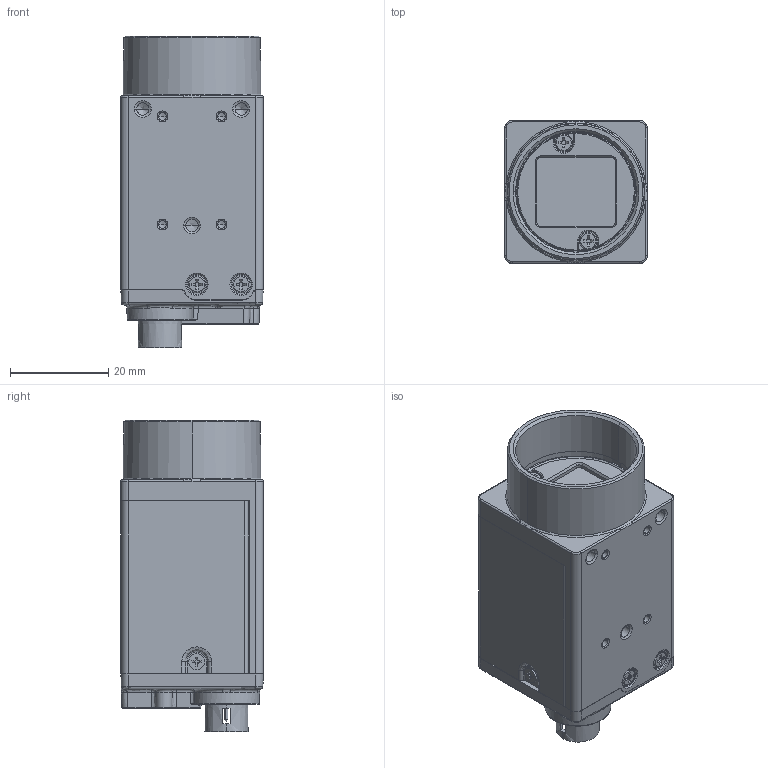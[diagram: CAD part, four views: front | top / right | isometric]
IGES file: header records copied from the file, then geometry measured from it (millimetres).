
Start section:  PTC IGES file: 18-95.igs
Global section: file name: 18-95.igs; native system: Creo Parametric by PTC Inc.; preprocessor: 2020184; author: 21511; organization: Unknown; date: 20231122.163020; units: millimetre
Bounding box: 29 x 29 x 63.25 mm (x, y, z)
Volume: 36059.6 mm3; surface area: 21785.8 mm2
Topology: 1 solids, 13 shells, 2025 faces, 5441 edges, 3432 vertices
Faces by surface type: bspline 1143, revolution 833, extrusion 49
